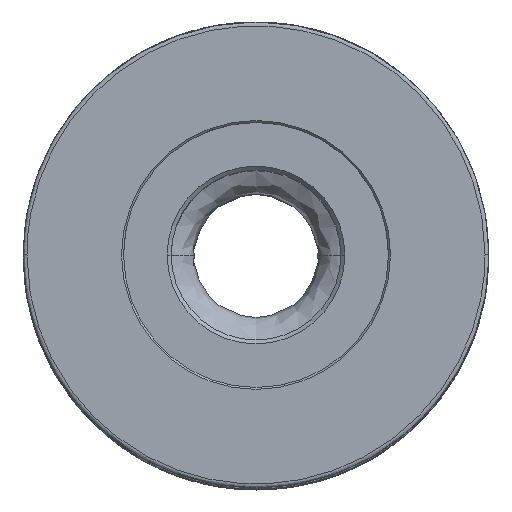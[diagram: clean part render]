
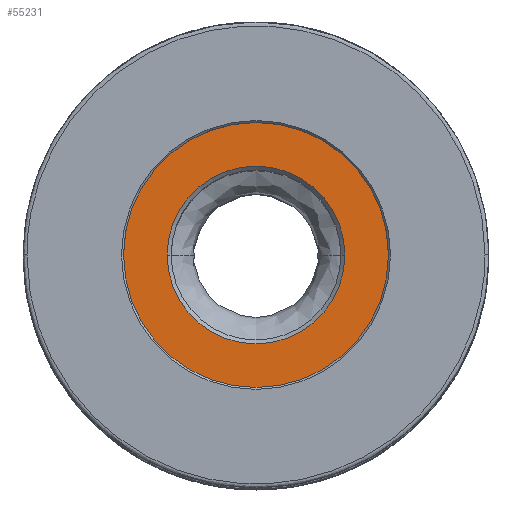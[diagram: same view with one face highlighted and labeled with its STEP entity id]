
A CAD part, top view. The second image highlights one B-rep face of the part: STEP entity #55231.
In plain terms, the highlighted planar face has unit normal (0, 0, 1).
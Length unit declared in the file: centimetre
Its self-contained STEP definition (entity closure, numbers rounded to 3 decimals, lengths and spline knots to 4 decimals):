
#8161 = ORIENTED_EDGE ( 'NONE', *, *, #43522, .T. ) ;
#8285 = ORIENTED_EDGE ( 'NONE', *, *, #19964, .T. ) ;
#8314 = ORIENTED_EDGE ( 'NONE', *, *, #26140, .T. ) ;
#8374 = ORIENTED_EDGE ( 'NONE', *, *, #19999, .T. ) ;
#19964 = EDGE_CURVE ( 'NONE', #49901, #51830, #60534, .T. ) ;
#19999 = EDGE_CURVE ( 'NONE', #51646, #49728, #60582, .T. ) ;
#22854 = CIRCLE ( 'NONE', #45775, 0.8522 ) ;
#24429 = CARTESIAN_POINT ( 'NONE',  ( 0., 0., -0.2489 ) ) ;
#24430 = DIRECTION ( 'NONE',  ( 0., 0., 1. ) ) ;
#24431 = DIRECTION ( 'NONE',  ( 1., 0., 0. ) ) ;
#26140 = EDGE_CURVE ( 'NONE', #49728, #51646, #22854, .T. ) ;
#30638 = CARTESIAN_POINT ( 'NONE',  ( 0.5715, 0., -0.2489 ) ) ;
#30815 = CIRCLE ( 'NONE', #36158, 0.5715 ) ;
#31111 = FACE_BOUND ( 'NONE', #44250, .T. ) ;
#31112 = FACE_OUTER_BOUND ( 'NONE', #44247, .T. ) ;
#35155 = CARTESIAN_POINT ( 'NONE',  ( 0., 0., -0.2489 ) ) ;
#35156 = DIRECTION ( 'NONE',  ( 0., 0., -1. ) ) ;
#35157 = DIRECTION ( 'NONE',  ( 1., 0., 0. ) ) ;
#35975 = CARTESIAN_POINT ( 'NONE',  ( 0.8522, 0., -0.2489 ) ) ;
#36158 = AXIS2_PLACEMENT_3D ( 'NONE', #35155, #35156, #35157 ) ;
#36269 = AXIS2_PLACEMENT_3D ( 'NONE', #57025, #57143, #57144 ) ;
#37469 = CARTESIAN_POINT ( 'NONE',  ( -0.8522, 0., -0.2489 ) ) ;
#37653 = CARTESIAN_POINT ( 'NONE',  ( -0.5715, 0., -0.2489 ) ) ;
#43522 = EDGE_CURVE ( 'NONE', #51830, #49901, #30815, .T. ) ;
#43606 = AXIS2_PLACEMENT_3D ( 'NONE', #56664, #56665, #56666 ) ;
#43610 = AXIS2_PLACEMENT_3D ( 'NONE', #56697, #56698, #56699 ) ;
#44247 = EDGE_LOOP ( 'NONE', ( #8314, #8374 ) ) ;
#44250 = EDGE_LOOP ( 'NONE', ( #8285, #8161 ) ) ;
#45775 = AXIS2_PLACEMENT_3D ( 'NONE', #24429, #24430, #24431 ) ;
#49728 = VERTEX_POINT ( 'NONE', #35975 ) ;
#49901 = VERTEX_POINT ( 'NONE', #30638 ) ;
#51646 = VERTEX_POINT ( 'NONE', #37469 ) ;
#51830 = VERTEX_POINT ( 'NONE', #37653 ) ;
#55231 = ADVANCED_FACE ( 'NONE', ( #31111, #31112 ), #57141, .T. ) ;
#56664 = CARTESIAN_POINT ( 'NONE',  ( 0., 0., -0.2489 ) ) ;
#56665 = DIRECTION ( 'NONE',  ( 0., 0., -1. ) ) ;
#56666 = DIRECTION ( 'NONE',  ( 1., 0., 0. ) ) ;
#56697 = CARTESIAN_POINT ( 'NONE',  ( 0., 0., -0.2489 ) ) ;
#56698 = DIRECTION ( 'NONE',  ( 0., 0., 1. ) ) ;
#56699 = DIRECTION ( 'NONE',  ( 1., 0., 0. ) ) ;
#57025 = CARTESIAN_POINT ( 'NONE',  ( 0., 0., -0.2489 ) ) ;
#57141 = PLANE ( 'NONE',  #36269 ) ;
#57143 = DIRECTION ( 'NONE',  ( 0., 0., 1. ) ) ;
#57144 = DIRECTION ( 'NONE',  ( 1., 0., 0. ) ) ;
#60534 = CIRCLE ( 'NONE', #43606, 0.5715 ) ;
#60582 = CIRCLE ( 'NONE', #43610, 0.8522 ) ;
